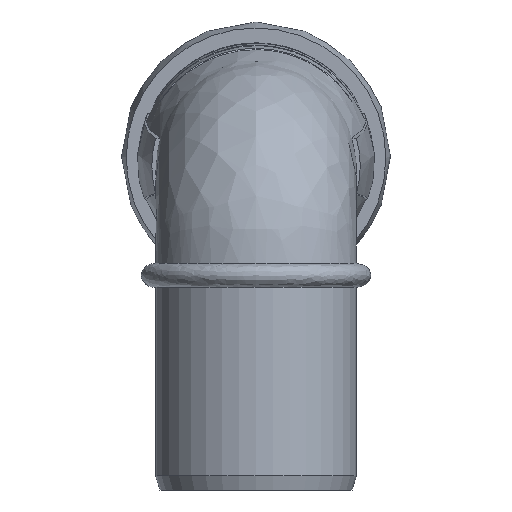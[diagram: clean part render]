
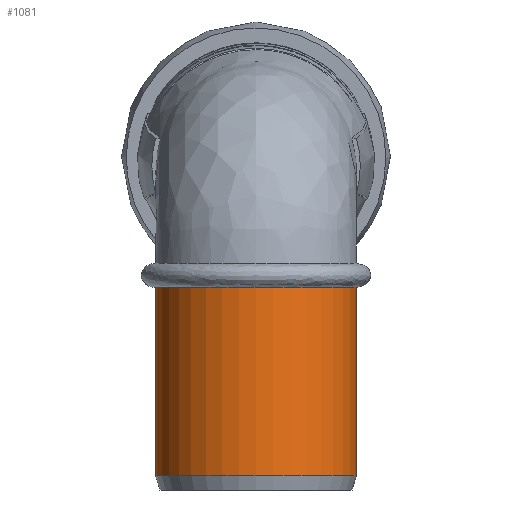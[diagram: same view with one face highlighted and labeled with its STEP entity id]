
A CAD part, left-side view. The second image highlights one B-rep face of the part: STEP entity #1081.
In plain terms, the highlighted cylindrical face has radius 25.075 mm (diameter 50.15 mm), a full revolution.
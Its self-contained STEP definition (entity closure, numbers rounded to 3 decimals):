
#25=FACE_BOUND('',#161,.T.);
#51=CYLINDRICAL_SURFACE('',#1162,25.075);
#101=FACE_OUTER_BOUND('',#160,.T.);
#160=EDGE_LOOP('',(#711));
#161=EDGE_LOOP('',(#712));
#264=CIRCLE('',#1158,25.075);
#268=CIRCLE('',#1163,25.075);
#413=VERTEX_POINT('',#1825);
#414=VERTEX_POINT('',#1832);
#535=EDGE_CURVE('',#413,#413,#264,.T.);
#539=EDGE_CURVE('',#414,#414,#268,.T.);
#711=ORIENTED_EDGE('',*,*,#539,.F.);
#712=ORIENTED_EDGE('',*,*,#535,.T.);
#1081=ADVANCED_FACE('',(#101,#25),#51,.T.);
#1158=AXIS2_PLACEMENT_3D('',#1827,#1274,#1275);
#1162=AXIS2_PLACEMENT_3D('',#1831,#1282,#1283);
#1163=AXIS2_PLACEMENT_3D('',#1833,#1284,#1285);
#1274=DIRECTION('center_axis',(0.,0.,-1.));
#1275=DIRECTION('ref_axis',(1.,0.,0.));
#1282=DIRECTION('center_axis',(0.,0.,-1.));
#1283=DIRECTION('ref_axis',(0.,1.,0.));
#1284=DIRECTION('center_axis',(0.,0.,-1.));
#1285=DIRECTION('ref_axis',(1.,0.,0.));
#1825=CARTESIAN_POINT('',(0.,25.075,50.55));
#1827=CARTESIAN_POINT('Origin',(0.,0.,50.55));
#1831=CARTESIAN_POINT('Origin',(0.,0.,27.65));
#1832=CARTESIAN_POINT('',(0.,25.075,3.5));
#1833=CARTESIAN_POINT('Origin',(0.,0.,3.5));
